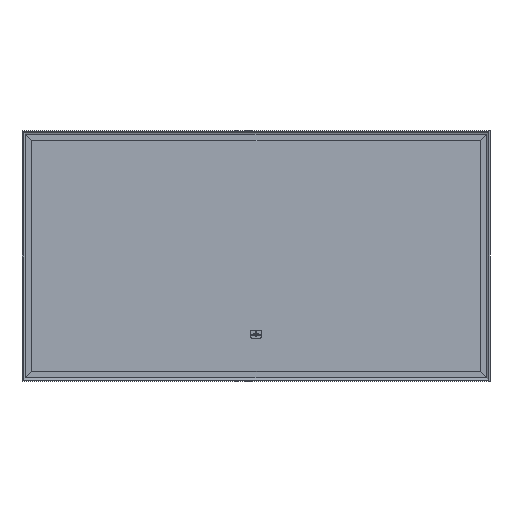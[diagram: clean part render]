
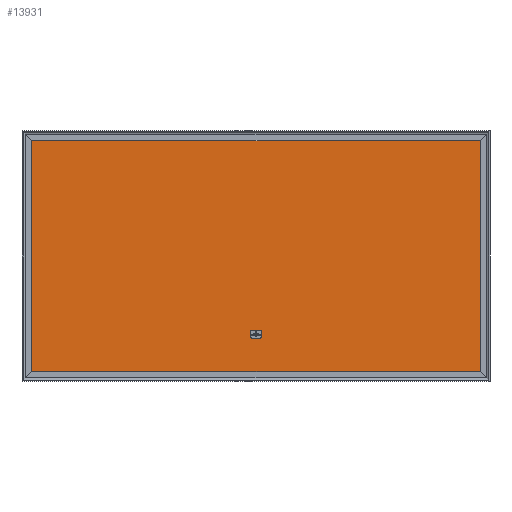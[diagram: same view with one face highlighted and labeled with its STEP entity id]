
A CAD part, front view. The second image highlights one B-rep face of the part: STEP entity #13931.
In plain terms, the highlighted planar face has unit normal (0, -1, 0).
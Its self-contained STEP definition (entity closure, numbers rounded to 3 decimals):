
#226=LINE('',#20076,#1801);
#234=LINE('',#20091,#1809);
#485=LINE('',#20832,#2060);
#489=LINE('',#20851,#2064);
#491=LINE('',#20854,#2066);
#492=LINE('',#20856,#2067);
#493=LINE('',#20858,#2068);
#494=LINE('',#20862,#2069);
#1801=VECTOR('',#16061,691.);
#1809=VECTOR('',#16073,691.);
#2060=VECTOR('',#16742,15.086);
#2064=VECTOR('',#16770,1342.);
#2066=VECTOR('',#16774,1342.);
#2067=VECTOR('',#16775,23.571);
#2068=VECTOR('',#16776,23.571);
#2069=VECTOR('',#16779,15.086);
#3403=PLANE('',#14891);
#3906=FACE_BOUND('',#5049,.T.);
#4215=FACE_OUTER_BOUND('',#5048,.T.);
#5048=EDGE_LOOP('',(#10369,#10370,#10371,#10372));
#5049=EDGE_LOOP('',(#10373,#10374,#10375,#10376,#10377,#10378,#10379,#10380));
#5905=CIRCLE('',#14876,4.714);
#5907=CIRCLE('',#14880,4.714);
#5909=CIRCLE('',#14892,4.714);
#5910=CIRCLE('',#14893,4.714);
#6271=VERTEX_POINT('',#20072);
#6273=VERTEX_POINT('',#20075);
#6276=VERTEX_POINT('',#20085);
#6278=VERTEX_POINT('',#20089);
#6515=VERTEX_POINT('',#20822);
#6516=VERTEX_POINT('',#20823);
#6519=VERTEX_POINT('',#20831);
#6521=VERTEX_POINT('',#20837);
#6523=VERTEX_POINT('',#20855);
#6524=VERTEX_POINT('',#20857);
#6525=VERTEX_POINT('',#20859);
#6526=VERTEX_POINT('',#20861);
#7664=EDGE_CURVE('',#6271,#6273,#226,.T.);
#7672=EDGE_CURVE('',#6278,#6276,#234,.T.);
#8013=EDGE_CURVE('',#6515,#6516,#5905,.T.);
#8017=EDGE_CURVE('',#6519,#6515,#485,.T.);
#8020=EDGE_CURVE('',#6521,#6519,#5907,.T.);
#8023=EDGE_CURVE('',#6276,#6271,#489,.T.);
#8025=EDGE_CURVE('',#6273,#6278,#491,.T.);
#8026=EDGE_CURVE('',#6523,#6521,#492,.T.);
#8027=EDGE_CURVE('',#6516,#6524,#493,.T.);
#8028=EDGE_CURVE('',#6524,#6525,#5909,.T.);
#8029=EDGE_CURVE('',#6525,#6526,#494,.T.);
#8030=EDGE_CURVE('',#6526,#6523,#5910,.T.);
#10369=ORIENTED_EDGE('',*,*,#8023,.F.);
#10370=ORIENTED_EDGE('',*,*,#7672,.F.);
#10371=ORIENTED_EDGE('',*,*,#8025,.F.);
#10372=ORIENTED_EDGE('',*,*,#7664,.F.);
#10373=ORIENTED_EDGE('',*,*,#8026,.T.);
#10374=ORIENTED_EDGE('',*,*,#8020,.T.);
#10375=ORIENTED_EDGE('',*,*,#8017,.T.);
#10376=ORIENTED_EDGE('',*,*,#8013,.T.);
#10377=ORIENTED_EDGE('',*,*,#8027,.T.);
#10378=ORIENTED_EDGE('',*,*,#8028,.T.);
#10379=ORIENTED_EDGE('',*,*,#8029,.T.);
#10380=ORIENTED_EDGE('',*,*,#8030,.T.);
#13931=ADVANCED_FACE('',(#4215,#3906),#3403,.F.);
#14876=AXIS2_PLACEMENT_3D('',#20824,#16734,#16735);
#14880=AXIS2_PLACEMENT_3D('',#20838,#16747,#16748);
#14891=AXIS2_PLACEMENT_3D('',#20853,#16772,#16773);
#14892=AXIS2_PLACEMENT_3D('',#20860,#16777,#16778);
#14893=AXIS2_PLACEMENT_3D('',#20863,#16780,#16781);
#16061=DIRECTION('',(0.,0.,-1.));
#16073=DIRECTION('',(0.,0.,1.));
#16734=DIRECTION('center_axis',(0.,1.,0.));
#16735=DIRECTION('ref_axis',(0.,0.,-1.));
#16742=DIRECTION('',(0.,0.,-1.));
#16747=DIRECTION('center_axis',(0.,1.,0.));
#16748=DIRECTION('ref_axis',(1.,0.,0.));
#16770=DIRECTION('',(1.,0.,0.));
#16772=DIRECTION('center_axis',(0.,1.,0.));
#16773=DIRECTION('ref_axis',(-1.,0.,0.));
#16774=DIRECTION('',(-1.,0.,0.));
#16775=DIRECTION('',(1.,0.,0.));
#16776=DIRECTION('',(-1.,0.,0.));
#16777=DIRECTION('center_axis',(0.,1.,0.));
#16778=DIRECTION('ref_axis',(-1.,0.,0.));
#16779=DIRECTION('',(0.,0.,1.));
#16780=DIRECTION('center_axis',(0.,1.,0.));
#16781=DIRECTION('ref_axis',(0.,0.,1.));
#20072=CARTESIAN_POINT('',(671.,5.75,720.5));
#20075=CARTESIAN_POINT('',(671.,5.75,29.5));
#20076=CARTESIAN_POINT('',(671.,5.75,548.));
#20085=CARTESIAN_POINT('',(-671.,5.75,720.5));
#20089=CARTESIAN_POINT('',(-671.,5.75,29.5));
#20091=CARTESIAN_POINT('',(-671.,5.75,202.));
#20822=CARTESIAN_POINT('',(16.5,5.75,133.714));
#20823=CARTESIAN_POINT('',(11.786,5.75,129.));
#20824=CARTESIAN_POINT('Origin',(11.786,5.75,133.714));
#20831=CARTESIAN_POINT('',(16.5,5.75,148.8));
#20832=CARTESIAN_POINT('',(16.5,5.75,261.9));
#20837=CARTESIAN_POINT('',(11.786,5.75,153.514));
#20838=CARTESIAN_POINT('Origin',(11.786,5.75,148.8));
#20851=CARTESIAN_POINT('',(114.25,5.75,720.5));
#20853=CARTESIAN_POINT('Origin',(0.,5.75,
375.));
#20854=CARTESIAN_POINT('',(485.75,5.75,29.5));
#20855=CARTESIAN_POINT('',(-11.786,5.75,153.514));
#20856=CARTESIAN_POINT('',(-5.893,5.75,153.514));
#20857=CARTESIAN_POINT('',(-11.786,5.75,129.));
#20858=CARTESIAN_POINT('',(5.893,5.75,129.));
#20859=CARTESIAN_POINT('',(-16.5,5.75,133.714));
#20860=CARTESIAN_POINT('Origin',(-11.786,5.75,133.714));
#20861=CARTESIAN_POINT('',(-16.5,5.75,148.8));
#20862=CARTESIAN_POINT('',(-16.5,5.75,254.357));
#20863=CARTESIAN_POINT('Origin',(-11.786,5.75,148.8));
